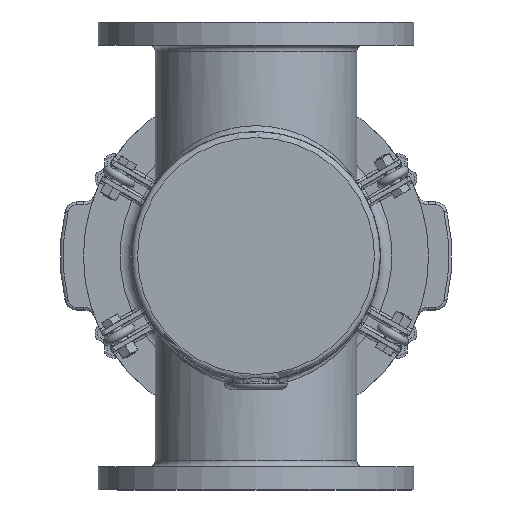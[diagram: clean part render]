
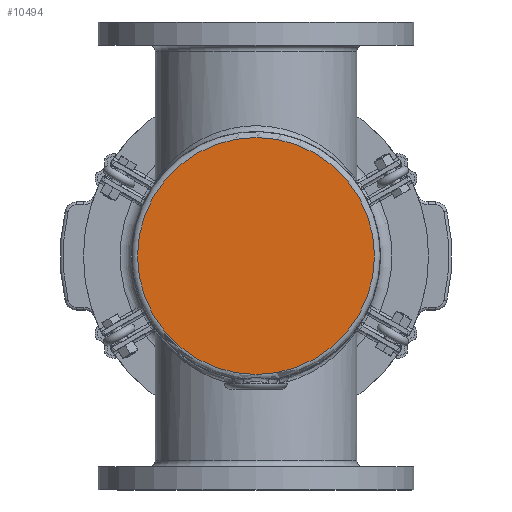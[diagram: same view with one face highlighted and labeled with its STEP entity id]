
A CAD part, front view. The second image highlights one B-rep face of the part: STEP entity #10494.
In plain terms, the highlighted planar face has unit normal (0, -1, 0).
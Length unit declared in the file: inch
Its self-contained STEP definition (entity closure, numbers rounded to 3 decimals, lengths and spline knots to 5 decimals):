
#1331=PLANE('',#11208);
#2236=FACE_OUTER_BOUND('',#2918,.T.);
#2918=EDGE_LOOP('',(#7013));
#3782=CIRCLE('',#11204,5.0625);
#4510=VERTEX_POINT('',#16364);
#5476=EDGE_CURVE('',#4510,#4510,#3782,.T.);
#7013=ORIENTED_EDGE('',*,*,#5476,.F.);
#10494=ADVANCED_FACE('',(#2236),#1331,.F.);
#11204=AXIS2_PLACEMENT_3D('',#16365,#12654,#12655);
#11208=AXIS2_PLACEMENT_3D('',#16370,#12662,#12663);
#12654=DIRECTION('center_axis',(0.,1.,0.));
#12655=DIRECTION('ref_axis',(1.,0.,0.));
#12662=DIRECTION('center_axis',(0.,1.,0.));
#12663=DIRECTION('ref_axis',(0.,0.,1.));
#16364=CARTESIAN_POINT('',(-5.0625,0.,0.));
#16365=CARTESIAN_POINT('Origin',(0.,0.,0.));
#16370=CARTESIAN_POINT('Origin',(0.,0.,0.));
